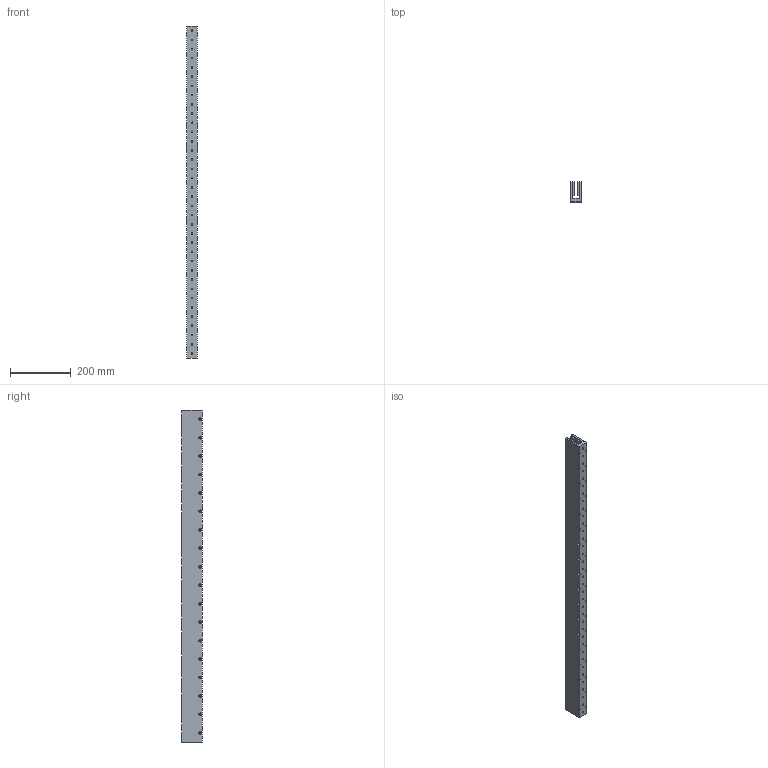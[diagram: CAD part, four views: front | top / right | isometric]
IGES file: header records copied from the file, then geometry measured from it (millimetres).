
Global section: file name: No Iges File Name specified; native system: Autodesk Inventor 2012; preprocessor: AutoDesk Inventor Iges Exporter R2012; author: je17857; date: 20120511.155327; units: inch
Bounding box: 34.29 x 67.31 x 1097.03 mm (x, y, z)
Volume: 1617157.5 mm3; surface area: 422425.9 mm2
Topology: 1 solids, 1 shells, 532 faces, 1230 edges, 826 vertices
Faces by surface type: plane 424, revolution 108
